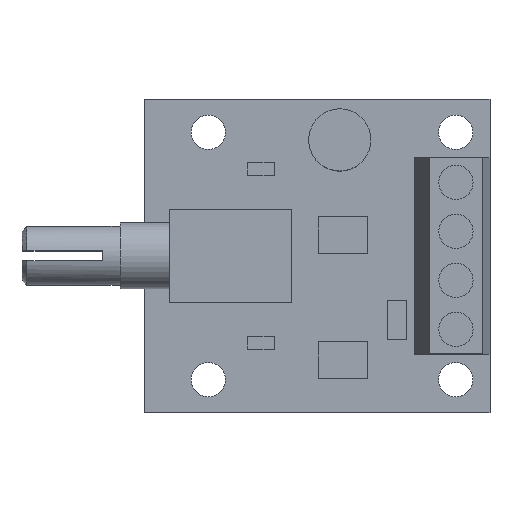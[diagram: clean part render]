
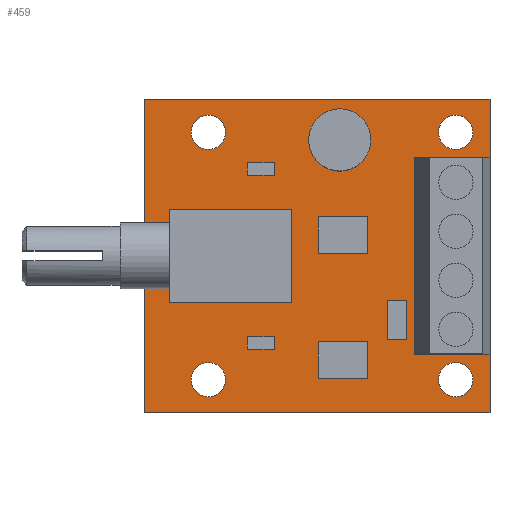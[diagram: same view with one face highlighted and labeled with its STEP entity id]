
A CAD part, top view. The second image highlights one B-rep face of the part: STEP entity #459.
In plain terms, the highlighted planar face has unit normal (0, 0, 1).
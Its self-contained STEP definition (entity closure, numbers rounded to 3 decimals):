
#63=CARTESIAN_POINT('Vertex',(-19.125,-16.,1.2)) ;
#77=CARTESIAN_POINT('Vertex',(16.125,-16.,1.2)) ;
#80=CARTESIAN_POINT('Line Origine',(-1.5,-16.,1.2)) ;
#108=CARTESIAN_POINT('Vertex',(16.125,16.,1.2)) ;
#111=CARTESIAN_POINT('Line Origine',(16.125,0.,1.2)) ;
#139=CARTESIAN_POINT('Vertex',(-19.125,16.,1.2)) ;
#142=CARTESIAN_POINT('Line Origine',(-1.5,16.,1.2)) ;
#164=CARTESIAN_POINT('Line Origine',(-19.125,0.,1.2)) ;
#181=CARTESIAN_POINT('Axis2P3D Location',(-12.625,12.625,1.2)) ;
#185=CARTESIAN_POINT('Vertex',(-14.375,12.625,1.2)) ;
#187=CARTESIAN_POINT('Vertex',(-10.875,12.625,1.2)) ;
#216=CARTESIAN_POINT('Axis2P3D Location',(-12.625,12.625,1.2)) ;
#238=CARTESIAN_POINT('Axis2P3D Location',(-12.625,-12.625,1.2)) ;
#242=CARTESIAN_POINT('Vertex',(-14.375,-12.625,1.2)) ;
#244=CARTESIAN_POINT('Vertex',(-10.875,-12.625,1.2)) ;
#273=CARTESIAN_POINT('Axis2P3D Location',(-12.625,-12.625,1.2)) ;
#295=CARTESIAN_POINT('Axis2P3D Location',(12.625,-12.625,1.2)) ;
#299=CARTESIAN_POINT('Vertex',(10.875,-12.625,1.2)) ;
#301=CARTESIAN_POINT('Vertex',(14.375,-12.625,1.2)) ;
#330=CARTESIAN_POINT('Axis2P3D Location',(12.625,-12.625,1.2)) ;
#352=CARTESIAN_POINT('Axis2P3D Location',(12.625,12.625,1.2)) ;
#356=CARTESIAN_POINT('Vertex',(10.875,12.625,1.2)) ;
#358=CARTESIAN_POINT('Vertex',(14.375,12.625,1.2)) ;
#387=CARTESIAN_POINT('Axis2P3D Location',(12.625,12.625,1.2)) ;
#432=CARTESIAN_POINT('Axis2P3D Location',(0.,0.,1.2)) ;
#81=DIRECTION('Vector Direction',(1.,0.,0.)) ;
#112=DIRECTION('Vector Direction',(0.,1.,0.)) ;
#143=DIRECTION('Vector Direction',(-1.,0.,0.)) ;
#165=DIRECTION('Vector Direction',(0.,-1.,0.)) ;
#182=DIRECTION('Axis2P3D Direction',(0.,0.,1.)) ;
#217=DIRECTION('Axis2P3D Direction',(0.,0.,1.)) ;
#239=DIRECTION('Axis2P3D Direction',(0.,0.,1.)) ;
#274=DIRECTION('Axis2P3D Direction',(0.,0.,1.)) ;
#296=DIRECTION('Axis2P3D Direction',(0.,0.,1.)) ;
#331=DIRECTION('Axis2P3D Direction',(0.,0.,1.)) ;
#353=DIRECTION('Axis2P3D Direction',(0.,0.,1.)) ;
#388=DIRECTION('Axis2P3D Direction',(0.,0.,1.)) ;
#433=DIRECTION('Axis2P3D Direction',(0.,0.,1.)) ;
#434=DIRECTION('Axis2P3D XDirection',(1.,0.,0.)) ;
#183=AXIS2_PLACEMENT_3D('Circle Axis2P3D',#181,#182,$) ;
#218=AXIS2_PLACEMENT_3D('Circle Axis2P3D',#216,#217,$) ;
#240=AXIS2_PLACEMENT_3D('Circle Axis2P3D',#238,#239,$) ;
#275=AXIS2_PLACEMENT_3D('Circle Axis2P3D',#273,#274,$) ;
#297=AXIS2_PLACEMENT_3D('Circle Axis2P3D',#295,#296,$) ;
#332=AXIS2_PLACEMENT_3D('Circle Axis2P3D',#330,#331,$) ;
#354=AXIS2_PLACEMENT_3D('Circle Axis2P3D',#352,#353,$) ;
#389=AXIS2_PLACEMENT_3D('Circle Axis2P3D',#387,#388,$) ;
#435=AXIS2_PLACEMENT_3D('Plane Axis2P3D',#432,#433,#434) ;
#438=ORIENTED_EDGE('',*,*,#84,.T.) ;
#439=ORIENTED_EDGE('',*,*,#115,.T.) ;
#440=ORIENTED_EDGE('',*,*,#146,.T.) ;
#441=ORIENTED_EDGE('',*,*,#168,.T.) ;
#444=ORIENTED_EDGE('',*,*,#189,.F.) ;
#445=ORIENTED_EDGE('',*,*,#220,.F.) ;
#448=ORIENTED_EDGE('',*,*,#246,.F.) ;
#449=ORIENTED_EDGE('',*,*,#277,.F.) ;
#452=ORIENTED_EDGE('',*,*,#303,.F.) ;
#453=ORIENTED_EDGE('',*,*,#334,.F.) ;
#456=ORIENTED_EDGE('',*,*,#360,.F.) ;
#457=ORIENTED_EDGE('',*,*,#391,.F.) ;
#446=FACE_BOUND('',#443,.T.) ;
#450=FACE_BOUND('',#447,.T.) ;
#454=FACE_BOUND('',#451,.T.) ;
#458=FACE_BOUND('',#455,.T.) ;
#82=VECTOR('Line Direction',#81,1.) ;
#113=VECTOR('Line Direction',#112,1.) ;
#144=VECTOR('Line Direction',#143,1.) ;
#166=VECTOR('Line Direction',#165,1.) ;
#459=ADVANCED_FACE('PartBody',(#442,#446,#450,#454,#458),#436,.T.) ;
#184=CIRCLE('generated circle',#183,1.75) ;
#219=CIRCLE('generated circle',#218,1.75) ;
#241=CIRCLE('generated circle',#240,1.75) ;
#276=CIRCLE('generated circle',#275,1.75) ;
#298=CIRCLE('generated circle',#297,1.75) ;
#333=CIRCLE('generated circle',#332,1.75) ;
#355=CIRCLE('generated circle',#354,1.75) ;
#390=CIRCLE('generated circle',#389,1.75) ;
#84=EDGE_CURVE('',#64,#78,#83,.T.) ;
#115=EDGE_CURVE('',#78,#109,#114,.T.) ;
#146=EDGE_CURVE('',#109,#140,#145,.T.) ;
#168=EDGE_CURVE('',#140,#64,#167,.T.) ;
#189=EDGE_CURVE('',#186,#188,#184,.T.) ;
#220=EDGE_CURVE('',#188,#186,#219,.T.) ;
#246=EDGE_CURVE('',#243,#245,#241,.T.) ;
#277=EDGE_CURVE('',#245,#243,#276,.T.) ;
#303=EDGE_CURVE('',#300,#302,#298,.T.) ;
#334=EDGE_CURVE('',#302,#300,#333,.T.) ;
#360=EDGE_CURVE('',#357,#359,#355,.T.) ;
#391=EDGE_CURVE('',#359,#357,#390,.T.) ;
#437=EDGE_LOOP('',(#438,#439,#440,#441)) ;
#443=EDGE_LOOP('',(#444,#445)) ;
#447=EDGE_LOOP('',(#448,#449)) ;
#451=EDGE_LOOP('',(#452,#453)) ;
#455=EDGE_LOOP('',(#456,#457)) ;
#442=FACE_OUTER_BOUND('',#437,.T.) ;
#83=LINE('Line',#80,#82) ;
#114=LINE('Line',#111,#113) ;
#145=LINE('Line',#142,#144) ;
#167=LINE('Line',#164,#166) ;
#436=PLANE('Plane',#435) ;
#64=VERTEX_POINT('',#63) ;
#78=VERTEX_POINT('',#77) ;
#109=VERTEX_POINT('',#108) ;
#140=VERTEX_POINT('',#139) ;
#186=VERTEX_POINT('',#185) ;
#188=VERTEX_POINT('',#187) ;
#243=VERTEX_POINT('',#242) ;
#245=VERTEX_POINT('',#244) ;
#300=VERTEX_POINT('',#299) ;
#302=VERTEX_POINT('',#301) ;
#357=VERTEX_POINT('',#356) ;
#359=VERTEX_POINT('',#358) ;
